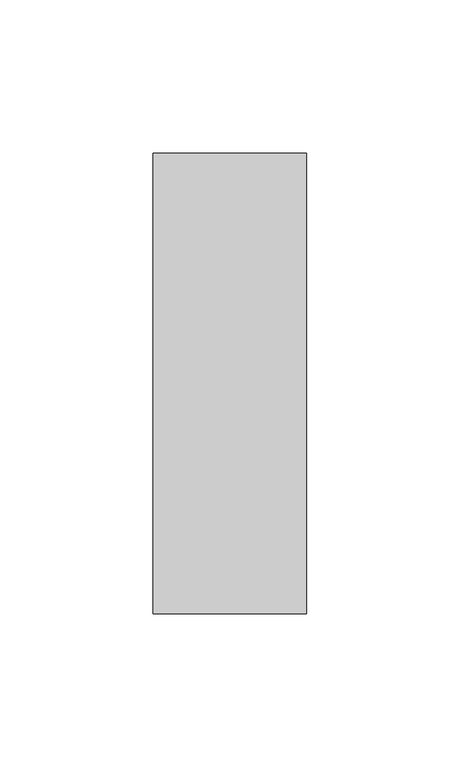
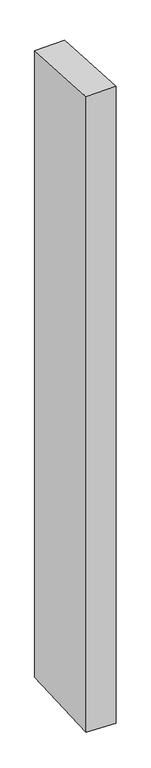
"""IFC4 building model written with IfcOpenShell, lengths in millimetres: member geometry, Прямоугольный импост : 50 x 150 мм."""

from ifc_helpers import new_model, si_unit, origin, place, context, project, spatial, faceted_brep, source, transform, mapped, element, save


def member_5ac8fe38(model_context):
    return source(origin(), model_context, "Body", "Brep", [
        faceted_brep([(-25.0, 75.0, -5.0950442), (25.0, 75.0, -4.034963), (25.0, 75.0, -1119.3358877), (-25.0, 75.0, -1118.0944399), (-25.0, -75.0, 4.034963), (-25.0, -75.0, -1124.7835602), (25.0, -75.0, 5.0950442), (25.0, -75.0, -1126.0250079)], [[[0, 1, 2, 3]], [[4, 0, 3, 5]], [[6, 4, 5, 7]], [[1, 6, 7, 2]], [[1, 0, 4, 6]], [[2, 7, 5, 3]]]),
    ])


if __name__ == "__main__":
    model = new_model("IFC4")
    model_context = context("Model", 3, world=origin())
    ifc_project = project(units=[si_unit("LENGTHUNIT", "METRE", prefix="MILLI")], contexts=[model_context])
    site = spatial("IfcSite", under=ifc_project)
    building = spatial("IfcBuilding", under=site)
    placement = place(None, origin())
    member_shape = member_5ac8fe38(model_context)
    element("IfcMember", 1, ObjectType="Прямоугольный импост : 50 x 150 мм", at=placement, inside=building, context=model_context, shape_type="MappedRepresentation", body=[
        mapped(member_shape, transform((0.0, 0.0, 0.0), x_axis=(1.0, 0.0, 0.0), y_axis=(0.0, 1.0, 0.0), z_axis=(0.0, 0.0, 1.0))),
    ])
    save(model, "model.ifc")
